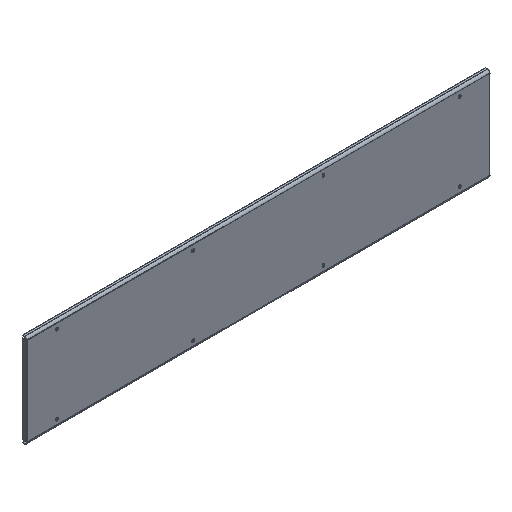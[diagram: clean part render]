
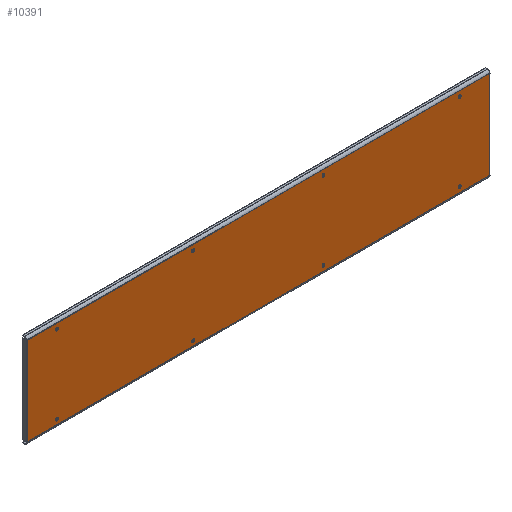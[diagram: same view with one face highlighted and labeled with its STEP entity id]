
A CAD part, isometric view. The second image highlights one B-rep face of the part: STEP entity #10391.
In plain terms, the highlighted planar face has unit normal (0, -1, 0).
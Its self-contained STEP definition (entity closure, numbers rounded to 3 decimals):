
#8466=CARTESIAN_POINT(' ',(275.,-1.5,-170.5));
#8467=VERTEX_POINT(' ',#8466);
#8481=CARTESIAN_POINT(' ',(275.,-1.5,-164.5));
#8486=DIRECTION(' ',(0.,-1.,0.));
#8491=DIRECTION(' ',(0.,0.,-1.));
#8496=AXIS2_PLACEMENT_3D(' ',#8481,#8486,#8491);
#8501=CIRCLE('',#8496,6.);
#8506=CARTESIAN_POINT(' ',(275.,-1.5,-158.5));
#8507=VERTEX_POINT(' ',#8506);
#8511=EDGE_CURVE(' ',#8467,#8507,#8501,.T.);
#9516=CARTESIAN_POINT(' ',(275.,-1.5,-164.5));
#9521=DIRECTION(' ',(0.,-1.,0.));
#9526=DIRECTION(' ',(0.,0.,1.));
#9531=AXIS2_PLACEMENT_3D(' ',#9516,#9521,#9526);
#9536=CIRCLE('',#9531,6.);
#9541=EDGE_CURVE(' ',#8507,#8467,#9536,.T.);
#9566=DIRECTION(' ',(-0.,-1.,-0.));
#9571=CARTESIAN_POINT(' ',(-975.25,-1.5,-186.5));
#9576=DIRECTION(' ',(1.,0.,-0.));
#9581=AXIS2_PLACEMENT_3D(' ',#9571,#9566,#9576);
#9586=PLANE('NONE',#9581);
#9591=CARTESIAN_POINT(' ',(975.25,-1.5,-186.5));
#9596=DIRECTION(' ',(0.,0.,1.));
#9601=VECTOR(' ',#9596,1.);
#9606=LINE('',#9591,#9601);
#9611=CARTESIAN_POINT(' ',(975.25,-1.5,-186.5));
#9612=VERTEX_POINT(' ',#9611);
#9616=CARTESIAN_POINT(' ',(975.25,-1.5,186.5));
#9617=VERTEX_POINT(' ',#9616);
#9621=EDGE_CURVE(' ',#9612,#9617,#9606,.T.);
#9626=ORIENTED_EDGE(' ',*,*,#9621,.T.);
#9631=CARTESIAN_POINT(' ',(975.25,-1.5,186.5));
#9636=DIRECTION(' ',(-1.,0.,0.));
#9641=VECTOR(' ',#9636,1.);
#9646=LINE('',#9631,#9641);
#9651=CARTESIAN_POINT(' ',(-975.25,-1.5,186.5));
#9652=VERTEX_POINT(' ',#9651);
#9656=EDGE_CURVE(' ',#9617,#9652,#9646,.T.);
#9661=ORIENTED_EDGE(' ',*,*,#9656,.T.);
#9666=CARTESIAN_POINT(' ',(-975.25,-1.5,186.5));
#9671=DIRECTION(' ',(0.,0.,-1.));
#9676=VECTOR(' ',#9671,1.);
#9681=LINE('',#9666,#9676);
#9686=CARTESIAN_POINT(' ',(-975.25,-1.5,-186.5));
#9687=VERTEX_POINT(' ',#9686);
#9691=EDGE_CURVE(' ',#9652,#9687,#9681,.T.);
#9696=ORIENTED_EDGE(' ',*,*,#9691,.T.);
#9701=CARTESIAN_POINT(' ',(-975.25,-1.5,-186.5));
#9706=DIRECTION(' ',(1.,0.,0.));
#9711=VECTOR(' ',#9706,1.);
#9716=LINE('',#9701,#9711);
#9721=EDGE_CURVE(' ',#9687,#9612,#9716,.T.);
#9726=ORIENTED_EDGE(' ',*,*,#9721,.T.);
#9731=EDGE_LOOP(' ',(#9626,#9661,#9696,#9726));
#9736=FACE_OUTER_BOUND(' ',#9731,.T.);
#9741=ORIENTED_EDGE(' ',*,*,#9541,.F.);
#9746=ORIENTED_EDGE(' ',*,*,#8511,.F.);
#9751=EDGE_LOOP(' ',(#9741,#9746));
#9756=FACE_BOUND(' ',#9751,.T.);
#9761=CARTESIAN_POINT(' ',(850.,-1.5,-164.5));
#9766=DIRECTION(' ',(0.,-1.,0.));
#9771=DIRECTION(' ',(0.,0.,1.));
#9776=AXIS2_PLACEMENT_3D(' ',#9761,#9766,#9771);
#9781=CIRCLE('',#9776,6.);
#9786=CARTESIAN_POINT(' ',(850.,-1.5,-158.5));
#9787=VERTEX_POINT(' ',#9786);
#9791=CARTESIAN_POINT(' ',(850.,-1.5,-170.5));
#9792=VERTEX_POINT(' ',#9791);
#9796=EDGE_CURVE(' ',#9787,#9792,#9781,.T.);
#9801=ORIENTED_EDGE(' ',*,*,#9796,.F.);
#9806=CARTESIAN_POINT(' ',(850.,-1.5,-164.5));
#9811=DIRECTION(' ',(0.,-1.,0.));
#9816=DIRECTION(' ',(0.,0.,-1.));
#9821=AXIS2_PLACEMENT_3D(' ',#9806,#9811,#9816);
#9826=CIRCLE('',#9821,6.);
#9831=EDGE_CURVE(' ',#9792,#9787,#9826,.T.);
#9836=ORIENTED_EDGE(' ',*,*,#9831,.F.);
#9841=EDGE_LOOP(' ',(#9801,#9836));
#9846=FACE_BOUND(' ',#9841,.T.);
#9851=CARTESIAN_POINT(' ',(850.,-1.5,164.5));
#9856=DIRECTION(' ',(0.,1.,0.));
#9861=DIRECTION(' ',(0.,0.,-1.));
#9866=AXIS2_PLACEMENT_3D(' ',#9851,#9856,#9861);
#9871=CIRCLE('',#9866,6.);
#9876=CARTESIAN_POINT(' ',(850.,-1.5,158.5));
#9877=VERTEX_POINT(' ',#9876);
#9881=CARTESIAN_POINT(' ',(850.,-1.5,170.5));
#9882=VERTEX_POINT(' ',#9881);
#9886=EDGE_CURVE(' ',#9877,#9882,#9871,.T.);
#9891=ORIENTED_EDGE(' ',*,*,#9886,.T.);
#9896=CARTESIAN_POINT(' ',(850.,-1.5,164.5));
#9901=DIRECTION(' ',(0.,1.,0.));
#9906=DIRECTION(' ',(0.,0.,1.));
#9911=AXIS2_PLACEMENT_3D(' ',#9896,#9901,#9906);
#9916=CIRCLE('',#9911,6.);
#9921=EDGE_CURVE(' ',#9882,#9877,#9916,.T.);
#9926=ORIENTED_EDGE(' ',*,*,#9921,.T.);
#9931=EDGE_LOOP(' ',(#9891,#9926));
#9936=FACE_BOUND(' ',#9931,.T.);
#9941=CARTESIAN_POINT(' ',(-275.,-1.5,164.5));
#9946=DIRECTION(' ',(0.,-1.,0.));
#9951=DIRECTION(' ',(0.,0.,-1.));
#9956=AXIS2_PLACEMENT_3D(' ',#9941,#9946,#9951);
#9961=CIRCLE('',#9956,6.);
#9966=CARTESIAN_POINT(' ',(-275.,-1.5,158.5));
#9967=VERTEX_POINT(' ',#9966);
#9971=CARTESIAN_POINT(' ',(-275.,-1.5,170.5));
#9972=VERTEX_POINT(' ',#9971);
#9976=EDGE_CURVE(' ',#9967,#9972,#9961,.T.);
#9981=ORIENTED_EDGE(' ',*,*,#9976,.F.);
#9986=CARTESIAN_POINT(' ',(-275.,-1.5,164.5));
#9991=DIRECTION(' ',(0.,-1.,0.));
#9996=DIRECTION(' ',(0.,0.,1.));
#10001=AXIS2_PLACEMENT_3D(' ',#9986,#9991,#9996);
#10006=CIRCLE('',#10001,6.);
#10011=EDGE_CURVE(' ',#9972,#9967,#10006,.T.);
#10016=ORIENTED_EDGE(' ',*,*,#10011,.F.);
#10021=EDGE_LOOP(' ',(#9981,#10016));
#10026=FACE_BOUND(' ',#10021,.T.);
#10031=CARTESIAN_POINT(' ',(-850.,-1.5,164.5));
#10036=DIRECTION(' ',(0.,-1.,0.));
#10041=DIRECTION(' ',(0.,0.,-1.));
#10046=AXIS2_PLACEMENT_3D(' ',#10031,#10036,#10041);
#10051=CIRCLE('',#10046,6.);
#10056=CARTESIAN_POINT(' ',(-850.,-1.5,158.5));
#10057=VERTEX_POINT(' ',#10056);
#10061=CARTESIAN_POINT(' ',(-850.,-1.5,170.5));
#10062=VERTEX_POINT(' ',#10061);
#10066=EDGE_CURVE(' ',#10057,#10062,#10051,.T.);
#10071=ORIENTED_EDGE(' ',*,*,#10066,.F.);
#10076=CARTESIAN_POINT(' ',(-850.,-1.5,164.5));
#10081=DIRECTION(' ',(0.,-1.,0.));
#10086=DIRECTION(' ',(0.,0.,1.));
#10091=AXIS2_PLACEMENT_3D(' ',#10076,#10081,#10086);
#10096=CIRCLE('',#10091,6.);
#10101=EDGE_CURVE(' ',#10062,#10057,#10096,.T.);
#10106=ORIENTED_EDGE(' ',*,*,#10101,.F.);
#10111=EDGE_LOOP(' ',(#10071,#10106));
#10116=FACE_BOUND(' ',#10111,.T.);
#10121=CARTESIAN_POINT(' ',(-850.,-1.5,-164.5));
#10126=DIRECTION(' ',(0.,1.,0.));
#10131=DIRECTION(' ',(0.,0.,1.));
#10136=AXIS2_PLACEMENT_3D(' ',#10121,#10126,#10131);
#10141=CIRCLE('',#10136,6.);
#10146=CARTESIAN_POINT(' ',(-850.,-1.5,-158.5));
#10147=VERTEX_POINT(' ',#10146);
#10151=CARTESIAN_POINT(' ',(-850.,-1.5,-170.5));
#10152=VERTEX_POINT(' ',#10151);
#10156=EDGE_CURVE(' ',#10147,#10152,#10141,.T.);
#10161=ORIENTED_EDGE(' ',*,*,#10156,.T.);
#10166=CARTESIAN_POINT(' ',(-850.,-1.5,-164.5));
#10171=DIRECTION(' ',(0.,1.,0.));
#10176=DIRECTION(' ',(0.,0.,-1.));
#10181=AXIS2_PLACEMENT_3D(' ',#10166,#10171,#10176);
#10186=CIRCLE('',#10181,6.);
#10191=EDGE_CURVE(' ',#10152,#10147,#10186,.T.);
#10196=ORIENTED_EDGE(' ',*,*,#10191,.T.);
#10201=EDGE_LOOP(' ',(#10161,#10196));
#10206=FACE_BOUND(' ',#10201,.T.);
#10211=CARTESIAN_POINT(' ',(275.,-1.5,164.5));
#10216=DIRECTION(' ',(0.,1.,0.));
#10221=DIRECTION(' ',(0.,0.,-1.));
#10226=AXIS2_PLACEMENT_3D(' ',#10211,#10216,#10221);
#10231=CIRCLE('',#10226,6.);
#10236=CARTESIAN_POINT(' ',(275.,-1.5,158.5));
#10237=VERTEX_POINT(' ',#10236);
#10241=CARTESIAN_POINT(' ',(275.,-1.5,170.5));
#10242=VERTEX_POINT(' ',#10241);
#10246=EDGE_CURVE(' ',#10237,#10242,#10231,.T.);
#10251=ORIENTED_EDGE(' ',*,*,#10246,.T.);
#10256=CARTESIAN_POINT(' ',(275.,-1.5,164.5));
#10261=DIRECTION(' ',(0.,1.,0.));
#10266=DIRECTION(' ',(0.,0.,1.));
#10271=AXIS2_PLACEMENT_3D(' ',#10256,#10261,#10266);
#10276=CIRCLE('',#10271,6.);
#10281=EDGE_CURVE(' ',#10242,#10237,#10276,.T.);
#10286=ORIENTED_EDGE(' ',*,*,#10281,.T.);
#10291=EDGE_LOOP(' ',(#10251,#10286));
#10296=FACE_BOUND(' ',#10291,.T.);
#10301=CARTESIAN_POINT(' ',(-275.,-1.5,-164.5));
#10306=DIRECTION(' ',(0.,1.,0.));
#10311=DIRECTION(' ',(0.,0.,1.));
#10316=AXIS2_PLACEMENT_3D(' ',#10301,#10306,#10311);
#10321=CIRCLE('',#10316,6.);
#10326=CARTESIAN_POINT(' ',(-275.,-1.5,-158.5));
#10327=VERTEX_POINT(' ',#10326);
#10331=CARTESIAN_POINT(' ',(-275.,-1.5,-170.5));
#10332=VERTEX_POINT(' ',#10331);
#10336=EDGE_CURVE(' ',#10327,#10332,#10321,.T.);
#10341=ORIENTED_EDGE(' ',*,*,#10336,.T.);
#10346=CARTESIAN_POINT(' ',(-275.,-1.5,-164.5));
#10351=DIRECTION(' ',(0.,1.,0.));
#10356=DIRECTION(' ',(0.,0.,-1.));
#10361=AXIS2_PLACEMENT_3D(' ',#10346,#10351,#10356);
#10366=CIRCLE('',#10361,6.);
#10371=EDGE_CURVE(' ',#10332,#10327,#10366,.T.);
#10376=ORIENTED_EDGE(' ',*,*,#10371,.T.);
#10381=EDGE_LOOP(' ',(#10341,#10376));
#10386=FACE_BOUND(' ',#10381,.T.);
#10391=ADVANCED_FACE('NONE',(#9736,#9756,#9846,#9936,#10026,#10116,#10206,#10296,#10386),#9586,.T.);
